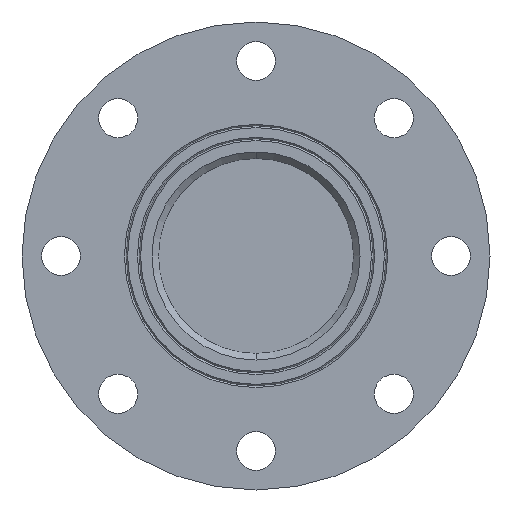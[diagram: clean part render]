
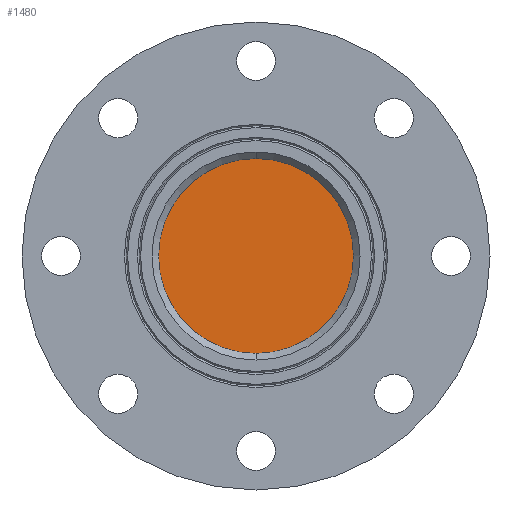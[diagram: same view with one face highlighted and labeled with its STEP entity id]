
A CAD part, front view. The second image highlights one B-rep face of the part: STEP entity #1480.
In plain terms, the highlighted planar face has unit normal (0, -1, 0).
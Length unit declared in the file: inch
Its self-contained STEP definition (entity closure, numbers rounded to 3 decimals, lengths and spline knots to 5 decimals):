
#25 = CARTESIAN_POINT ( 'NONE',  ( 0., -0.25, -1.875 ) ) ;
#99 = CARTESIAN_POINT ( 'NONE',  ( 0., -0.25, 1.875 ) ) ;
#109 = AXIS2_PLACEMENT_3D ( 'NONE', #705, #1114, #319 ) ;
#177 = VERTEX_POINT ( 'NONE', #99 ) ;
#203 = FACE_OUTER_BOUND ( 'NONE', #1372, .T. ) ;
#235 = EDGE_CURVE ( 'NONE', #177, #1052, #514, .T. ) ;
#319 = DIRECTION ( 'NONE',  ( 0., 0., -1. ) ) ;
#349 = ORIENTED_EDGE ( 'NONE', *, *, #235, .T. ) ;
#514 = CIRCLE ( 'NONE', #1002, 1.875 ) ;
#522 = ORIENTED_EDGE ( 'NONE', *, *, #561, .T. ) ;
#542 = DIRECTION ( 'NONE',  ( 0., -1., 0. ) ) ;
#561 = EDGE_CURVE ( 'NONE', #1052, #177, #1589, .T. ) ;
#648 = CARTESIAN_POINT ( 'NONE',  ( 0., -0.25, 0. ) ) ;
#705 = CARTESIAN_POINT ( 'NONE',  ( 0., -0.25, 0. ) ) ;
#784 = DIRECTION ( 'NONE',  ( 0., 0., -1. ) ) ;
#844 = PLANE ( 'NONE',  #109 ) ;
#1002 = AXIS2_PLACEMENT_3D ( 'NONE', #648, #1567, #784 ) ;
#1052 = VERTEX_POINT ( 'NONE', #25 ) ;
#1114 = DIRECTION ( 'NONE',  ( 0., -1., 0. ) ) ;
#1308 = AXIS2_PLACEMENT_3D ( 'NONE', #1334, #542, #1475 ) ;
#1334 = CARTESIAN_POINT ( 'NONE',  ( 0., -0.25, 0. ) ) ;
#1372 = EDGE_LOOP ( 'NONE', ( #522, #349 ) ) ;
#1475 = DIRECTION ( 'NONE',  ( 0., 0., -1. ) ) ;
#1480 = ADVANCED_FACE ( 'NONE', ( #203 ), #844, .T. ) ;
#1567 = DIRECTION ( 'NONE',  ( 0., -1., 0. ) ) ;
#1589 = CIRCLE ( 'NONE', #1308, 1.875 ) ;
